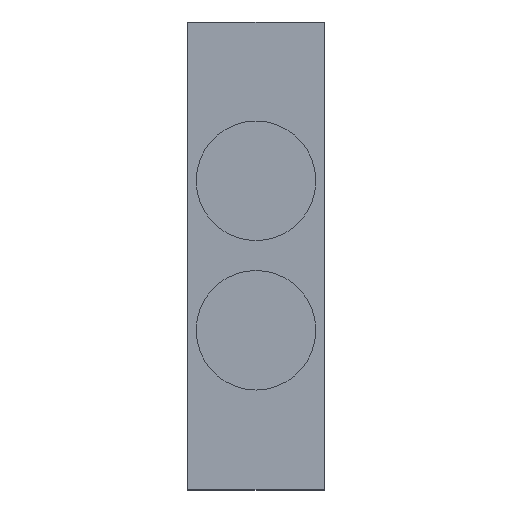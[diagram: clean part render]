
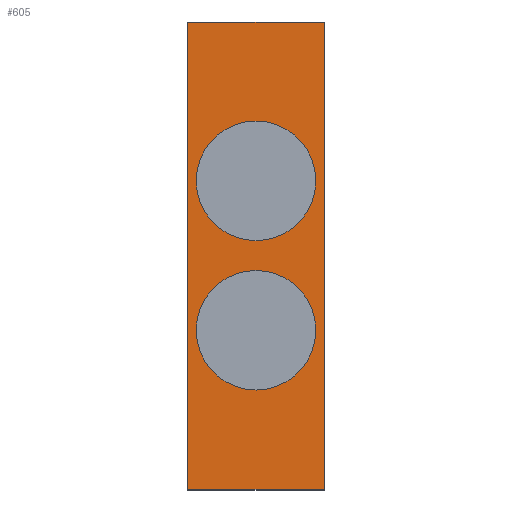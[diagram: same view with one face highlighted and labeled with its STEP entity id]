
A CAD part, top view. The second image highlights one B-rep face of the part: STEP entity #605.
In plain terms, the highlighted planar face has unit normal (0, 0, 1) as drawn and (-1, 0, 0) by its records, which use the part's own axes.
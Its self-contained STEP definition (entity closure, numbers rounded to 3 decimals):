
#23 = CARTESIAN_POINT ( 'NONE',  ( 0., 3.65, -7.2 ) ) ;
#109 = VERTEX_POINT ( 'NONE', #828 ) ;
#110 = EDGE_CURVE ( 'NONE', #286, #109, #826, .T. ) ;
#112 = EDGE_CURVE ( 'NONE', #140, #113, #849, .T. ) ;
#113 = VERTEX_POINT ( 'NONE', #850 ) ;
#140 = VERTEX_POINT ( 'NONE', #23 ) ;
#286 = VERTEX_POINT ( 'NONE', #453 ) ;
#453 = CARTESIAN_POINT ( 'NONE',  ( 0., 3.65, 0.8 ) ) ;
#542 = EDGE_CURVE ( 'NONE', #614, #575, #977, .T. ) ;
#575 = VERTEX_POINT ( 'NONE', #1060 ) ;
#579 = ORIENTED_EDGE ( 'NONE', *, *, #112, .F. ) ;
#580 = EDGE_LOOP ( 'NONE', ( #581, #582, #584, #585 ) ) ;
#581 = ORIENTED_EDGE ( 'NONE', *, *, #625, .T. ) ;
#582 = ORIENTED_EDGE ( 'NONE', *, *, #583, .F. ) ;
#583 = EDGE_CURVE ( 'NONE', #575, #626, #986, .T. ) ;
#584 = ORIENTED_EDGE ( 'NONE', *, *, #542, .F. ) ;
#585 = ORIENTED_EDGE ( 'NONE', *, *, #586, .T. ) ;
#586 = EDGE_CURVE ( 'NONE', #614, #703, #987, .T. ) ;
#605 = ADVANCED_FACE ( 'NONE', ( #994, #993, #992 ), #984, .F. ) ;
#606 = EDGE_LOOP ( 'NONE', ( #607, #609 ) ) ;
#607 = ORIENTED_EDGE ( 'NONE', *, *, #608, .F. ) ;
#608 = EDGE_CURVE ( 'NONE', #109, #286, #1023, .T. ) ;
#609 = ORIENTED_EDGE ( 'NONE', *, *, #110, .F. ) ;
#610 = EDGE_LOOP ( 'NONE', ( #611, #579 ) ) ;
#611 = ORIENTED_EDGE ( 'NONE', *, *, #612, .F. ) ;
#612 = EDGE_CURVE ( 'NONE', #113, #140, #1019, .T. ) ;
#614 = VERTEX_POINT ( 'NONE', #1087 ) ;
#625 = EDGE_CURVE ( 'NONE', #703, #626, #1005, .T. ) ;
#626 = VERTEX_POINT ( 'NONE', #1001 ) ;
#703 = VERTEX_POINT ( 'NONE', #1239 ) ;
#822 = DIRECTION ( 'NONE',  ( 0., 0., 1. ) ) ;
#823 = DIRECTION ( 'NONE',  ( -1., 0., 0. ) ) ;
#824 = CARTESIAN_POINT ( 'NONE',  ( 0., 3.65, 4. ) ) ;
#825 = AXIS2_PLACEMENT_3D ( 'NONE', #824, #823, #822 ) ;
#826 = CIRCLE ( 'NONE', #825, 3.2 ) ;
#828 = CARTESIAN_POINT ( 'NONE',  ( 0., 3.65, 7.2 ) ) ;
#845 = DIRECTION ( 'NONE',  ( 0., 0., 1. ) ) ;
#846 = DIRECTION ( 'NONE',  ( -1., 0., 0. ) ) ;
#847 = CARTESIAN_POINT ( 'NONE',  ( 0., 3.65, -4. ) ) ;
#848 = AXIS2_PLACEMENT_3D ( 'NONE', #847, #846, #845 ) ;
#849 = CIRCLE ( 'NONE', #848, 3.2 ) ;
#850 = CARTESIAN_POINT ( 'NONE',  ( 0., 3.65, -0.8 ) ) ;
#974 = DIRECTION ( 'NONE',  ( 0., 0., 1. ) ) ;
#975 = VECTOR ( 'NONE', #974, 1000. ) ;
#976 = CARTESIAN_POINT ( 'NONE',  ( 0., 7.3, -12.5 ) ) ;
#977 = LINE ( 'NONE', #976, #975 ) ;
#979 = CARTESIAN_POINT ( 'NONE',  ( 0., 3.65, 4. ) ) ;
#980 = DIRECTION ( 'NONE',  ( 0., 0., -1. ) ) ;
#981 = DIRECTION ( 'NONE',  ( 1., 0., 0. ) ) ;
#982 = CARTESIAN_POINT ( 'NONE',  ( 0., 7.3, -12.5 ) ) ;
#983 = AXIS2_PLACEMENT_3D ( 'NONE', #982, #981, #980 ) ;
#984 = PLANE ( 'NONE',  #983 ) ;
#985 = CARTESIAN_POINT ( 'NONE',  ( 0., 7.3, 12.5 ) ) ;
#986 = LINE ( 'NONE', #985, #1055 ) ;
#987 = LINE ( 'NONE', #1076, #1075 ) ;
#992 = FACE_OUTER_BOUND ( 'NONE', #580, .T. ) ;
#993 = FACE_BOUND ( 'NONE', #610, .T. ) ;
#994 = FACE_BOUND ( 'NONE', #606, .T. ) ;
#1001 = CARTESIAN_POINT ( 'NONE',  ( 0., 0., 12.5 ) ) ;
#1002 = DIRECTION ( 'NONE',  ( 0., 0., 1. ) ) ;
#1003 = VECTOR ( 'NONE', #1002, 1000. ) ;
#1004 = CARTESIAN_POINT ( 'NONE',  ( 0., 0., -12.5 ) ) ;
#1005 = LINE ( 'NONE', #1004, #1003 ) ;
#1018 = AXIS2_PLACEMENT_3D ( 'NONE', #1091, #1090, #1089 ) ;
#1019 = CIRCLE ( 'NONE', #1018, 3.2 ) ;
#1020 = DIRECTION ( 'NONE',  ( 0., 0., 1. ) ) ;
#1021 = DIRECTION ( 'NONE',  ( -1., 0., 0. ) ) ;
#1022 = AXIS2_PLACEMENT_3D ( 'NONE', #979, #1021, #1020 ) ;
#1023 = CIRCLE ( 'NONE', #1022, 3.2 ) ;
#1048 = DIRECTION ( 'NONE',  ( 0., -1., 0. ) ) ;
#1054 = DIRECTION ( 'NONE',  ( 0., -1., 0. ) ) ;
#1055 = VECTOR ( 'NONE', #1054, 1000. ) ;
#1060 = CARTESIAN_POINT ( 'NONE',  ( 0., 7.3, 12.5 ) ) ;
#1075 = VECTOR ( 'NONE', #1048, 1000. ) ;
#1076 = CARTESIAN_POINT ( 'NONE',  ( 0., 7.3, -12.5 ) ) ;
#1087 = CARTESIAN_POINT ( 'NONE',  ( 0., 7.3, -12.5 ) ) ;
#1089 = DIRECTION ( 'NONE',  ( 0., 0., 1. ) ) ;
#1090 = DIRECTION ( 'NONE',  ( -1., 0., 0. ) ) ;
#1091 = CARTESIAN_POINT ( 'NONE',  ( 0., 3.65, -4. ) ) ;
#1239 = CARTESIAN_POINT ( 'NONE',  ( 0., 0., -12.5 ) ) ;
